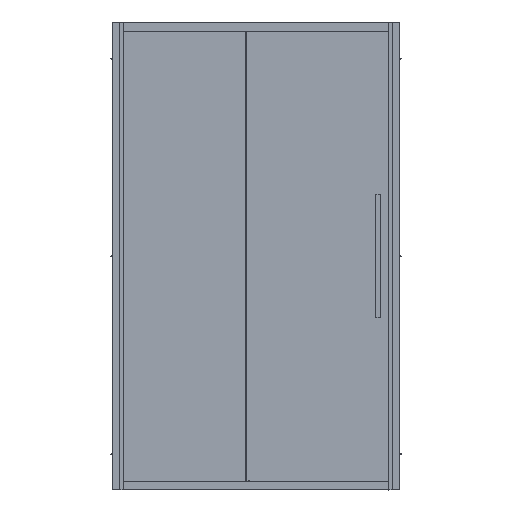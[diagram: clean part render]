
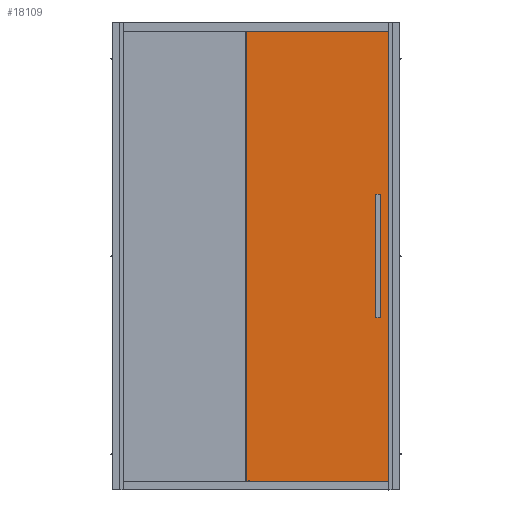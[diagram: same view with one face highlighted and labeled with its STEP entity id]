
A CAD part, front view. The second image highlights one B-rep face of the part: STEP entity #18109.
In plain terms, the highlighted planar face has unit normal (0, -1, 0) as drawn and (0, 0, 1) by its records, which use the part's own axes.
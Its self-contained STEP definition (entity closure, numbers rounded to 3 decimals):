
#17766=DIRECTION('',(0.,-1.,0.));
#17767=VECTOR('',#17766,1934.);
#17768=CARTESIAN_POINT('',(-310.,967.,4.));
#17769=LINE('',#17768,#17767);
#17770=DIRECTION('',(-1.,0.,0.));
#17771=VECTOR('',#17770,620.);
#17772=CARTESIAN_POINT('',(310.,967.,4.));
#17773=LINE('',#17772,#17771);
#17774=DIRECTION('',(0.,1.,0.));
#17775=VECTOR('',#17774,1934.);
#17776=CARTESIAN_POINT('',(310.,-967.,4.));
#17777=LINE('',#17776,#17775);
#17778=DIRECTION('',(1.,0.,0.));
#17779=VECTOR('',#17778,620.);
#17780=CARTESIAN_POINT('',(-310.,-967.,4.));
#17781=LINE('',#17780,#17779);
#17782=CARTESIAN_POINT('',(-250.,953.,4.));
#17783=DIRECTION('',(0.,0.,1.));
#17784=DIRECTION('',(1.,0.,0.));
#17785=AXIS2_PLACEMENT_3D('',#17782,#17783,#17784);
#17787=CARTESIAN_POINT('',(-250.,953.,4.));
#17788=DIRECTION('',(0.,0.,1.));
#17789=DIRECTION('',(-1.,0.,0.));
#17790=AXIS2_PLACEMENT_3D('',#17787,#17788,#17789);
#17792=CARTESIAN_POINT('',(250.,953.,4.));
#17793=DIRECTION('',(0.,0.,1.));
#17794=DIRECTION('',(1.,0.,0.));
#17795=AXIS2_PLACEMENT_3D('',#17792,#17793,#17794);
#17797=CARTESIAN_POINT('',(250.,953.,4.));
#17798=DIRECTION('',(0.,0.,1.));
#17799=DIRECTION('',(-1.,0.,0.));
#17800=AXIS2_PLACEMENT_3D('',#17797,#17798,#17799);
#17802=CARTESIAN_POINT('',(-250.,-953.,4.));
#17803=DIRECTION('',(0.,0.,1.));
#17804=DIRECTION('',(1.,0.,0.));
#17805=AXIS2_PLACEMENT_3D('',#17802,#17803,#17804);
#17807=CARTESIAN_POINT('',(-250.,-953.,4.));
#17808=DIRECTION('',(0.,0.,1.));
#17809=DIRECTION('',(-1.,0.,0.));
#17810=AXIS2_PLACEMENT_3D('',#17807,#17808,#17809);
#17812=CARTESIAN_POINT('',(250.,-953.,4.));
#17813=DIRECTION('',(0.,0.,1.));
#17814=DIRECTION('',(1.,0.,0.));
#17815=AXIS2_PLACEMENT_3D('',#17812,#17813,#17814);
#17817=CARTESIAN_POINT('',(250.,-953.,4.));
#17818=DIRECTION('',(0.,0.,1.));
#17819=DIRECTION('',(-1.,0.,0.));
#17820=AXIS2_PLACEMENT_3D('',#17817,#17818,#17819);
#17822=CARTESIAN_POINT('',(250.,248.,4.));
#17823=DIRECTION('',(0.,0.,1.));
#17824=DIRECTION('',(1.,0.,0.));
#17825=AXIS2_PLACEMENT_3D('',#17822,#17823,#17824);
#17827=CARTESIAN_POINT('',(250.,248.,4.));
#17828=DIRECTION('',(0.,0.,1.));
#17829=DIRECTION('',(-1.,0.,0.));
#17830=AXIS2_PLACEMENT_3D('',#17827,#17828,#17829);
#17832=CARTESIAN_POINT('',(250.,-248.,4.));
#17833=DIRECTION('',(0.,0.,1.));
#17834=DIRECTION('',(1.,0.,0.));
#17835=AXIS2_PLACEMENT_3D('',#17832,#17833,#17834);
#17837=CARTESIAN_POINT('',(250.,-248.,4.));
#17838=DIRECTION('',(0.,0.,1.));
#17839=DIRECTION('',(-1.,0.,0.));
#17840=AXIS2_PLACEMENT_3D('',#17837,#17838,#17839);
#17898=CARTESIAN_POINT('',(-310.,967.,4.));
#17899=CARTESIAN_POINT('',(-310.,-967.,4.));
#17900=VERTEX_POINT('',#17898);
#17901=VERTEX_POINT('',#17899);
#17902=CARTESIAN_POINT('',(310.,-967.,4.));
#17903=VERTEX_POINT('',#17902);
#17904=CARTESIAN_POINT('',(310.,967.,4.));
#17905=VERTEX_POINT('',#17904);
#17914=CARTESIAN_POINT('',(-245.,953.,4.));
#17915=CARTESIAN_POINT('',(-255.,953.,4.));
#17916=VERTEX_POINT('',#17914);
#17917=VERTEX_POINT('',#17915);
#17918=CARTESIAN_POINT('',(255.,953.,4.));
#17919=CARTESIAN_POINT('',(245.,953.,4.));
#17920=VERTEX_POINT('',#17918);
#17921=VERTEX_POINT('',#17919);
#17930=CARTESIAN_POINT('',(-245.,-953.,4.));
#17931=CARTESIAN_POINT('',(-255.,-953.,4.));
#17932=VERTEX_POINT('',#17930);
#17933=VERTEX_POINT('',#17931);
#17934=CARTESIAN_POINT('',(255.,-953.,4.));
#17935=CARTESIAN_POINT('',(245.,-953.,4.));
#17936=VERTEX_POINT('',#17934);
#17937=VERTEX_POINT('',#17935);
#17946=CARTESIAN_POINT('',(256.,248.,4.));
#17947=VERTEX_POINT('',#17946);
#17948=CARTESIAN_POINT('',(244.,248.,4.));
#17949=VERTEX_POINT('',#17948);
#17950=CARTESIAN_POINT('',(256.,-248.,4.));
#17951=VERTEX_POINT('',#17950);
#17952=CARTESIAN_POINT('',(244.,-248.,4.));
#17953=VERTEX_POINT('',#17952);
#18062=CARTESIAN_POINT('',(0.,0.,4.));
#18063=DIRECTION('',(0.,0.,1.));
#18064=DIRECTION('',(1.,0.,0.));
#18065=AXIS2_PLACEMENT_3D('',#18062,#18063,#18064);
#18066=PLANE('',#18065);
#18067=ORIENTED_EDGE('',*,*,#18014,.F.);
#18068=ORIENTED_EDGE('',*,*,#18029,.F.);
#18069=ORIENTED_EDGE('',*,*,#18043,.F.);
#18070=ORIENTED_EDGE('',*,*,#18056,.F.);
#18071=EDGE_LOOP('',(#18067,#18068,#18069,#18070));
#18072=FACE_OUTER_BOUND('',#18071,.F.);
#18074=ORIENTED_EDGE('',*,*,#18073,.T.);
#18076=ORIENTED_EDGE('',*,*,#18075,.T.);
#18077=EDGE_LOOP('',(#18074,#18076));
#18078=FACE_BOUND('',#18077,.F.);
#18080=ORIENTED_EDGE('',*,*,#18079,.T.);
#18082=ORIENTED_EDGE('',*,*,#18081,.T.);
#18083=EDGE_LOOP('',(#18080,#18082));
#18084=FACE_BOUND('',#18083,.F.);
#18086=ORIENTED_EDGE('',*,*,#18085,.T.);
#18088=ORIENTED_EDGE('',*,*,#18087,.T.);
#18089=EDGE_LOOP('',(#18086,#18088));
#18090=FACE_BOUND('',#18089,.F.);
#18092=ORIENTED_EDGE('',*,*,#18091,.T.);
#18094=ORIENTED_EDGE('',*,*,#18093,.T.);
#18095=EDGE_LOOP('',(#18092,#18094));
#18096=FACE_BOUND('',#18095,.F.);
#18098=ORIENTED_EDGE('',*,*,#18097,.T.);
#18100=ORIENTED_EDGE('',*,*,#18099,.T.);
#18101=EDGE_LOOP('',(#18098,#18100));
#18102=FACE_BOUND('',#18101,.F.);
#18104=ORIENTED_EDGE('',*,*,#18103,.T.);
#18106=ORIENTED_EDGE('',*,*,#18105,.T.);
#18107=EDGE_LOOP('',(#18104,#18106));
#18108=FACE_BOUND('',#18107,.F.);
#18109=ADVANCED_FACE('',(#18072,#18078,#18084,#18090,#18096,#18102,#18108),
#18066,.T.);
#17786=CIRCLE('',#17785,5.);
#17791=CIRCLE('',#17790,5.);
#17796=CIRCLE('',#17795,5.);
#17801=CIRCLE('',#17800,5.);
#17806=CIRCLE('',#17805,5.);
#17811=CIRCLE('',#17810,5.);
#17816=CIRCLE('',#17815,5.);
#17821=CIRCLE('',#17820,5.);
#17826=CIRCLE('',#17825,6.);
#17831=CIRCLE('',#17830,6.);
#17836=CIRCLE('',#17835,6.);
#17841=CIRCLE('',#17840,6.);
#18014=EDGE_CURVE('',#17900,#17901,#17769,.T.);
#18029=EDGE_CURVE('',#17905,#17900,#17773,.T.);
#18043=EDGE_CURVE('',#17903,#17905,#17777,.T.);
#18056=EDGE_CURVE('',#17901,#17903,#17781,.T.);
#18073=EDGE_CURVE('',#17916,#17917,#17786,.T.);
#18075=EDGE_CURVE('',#17917,#17916,#17791,.T.);
#18079=EDGE_CURVE('',#17920,#17921,#17796,.T.);
#18081=EDGE_CURVE('',#17921,#17920,#17801,.T.);
#18085=EDGE_CURVE('',#17932,#17933,#17806,.T.);
#18087=EDGE_CURVE('',#17933,#17932,#17811,.T.);
#18091=EDGE_CURVE('',#17936,#17937,#17816,.T.);
#18093=EDGE_CURVE('',#17937,#17936,#17821,.T.);
#18097=EDGE_CURVE('',#17947,#17949,#17826,.T.);
#18099=EDGE_CURVE('',#17949,#17947,#17831,.T.);
#18103=EDGE_CURVE('',#17951,#17953,#17836,.T.);
#18105=EDGE_CURVE('',#17953,#17951,#17841,.T.);
